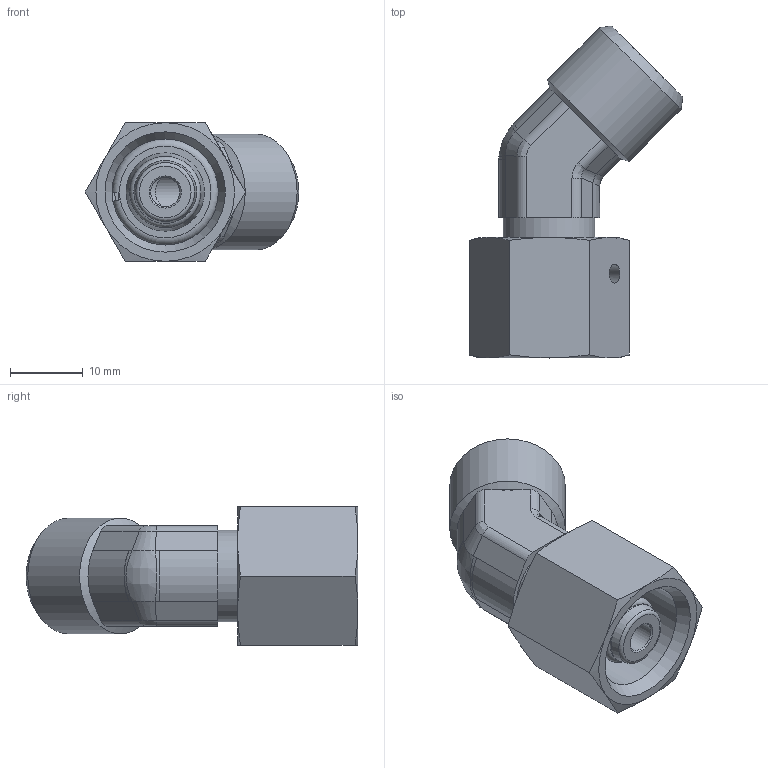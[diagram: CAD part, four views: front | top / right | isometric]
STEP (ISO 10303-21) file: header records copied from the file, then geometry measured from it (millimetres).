
FILE_DESCRIPTION(/* description */ ('','CAx-IF Rec.Pracs.---Representation and Presentation of Product Manufacturing Information (PMI)---4.0---2014-10-13'),/* implementation_level */ '2;1');
FILE_NAME(/* name */ 'M:\UFFICIO TECNICO\STEP per clienti\60\6055\605515.1.stp',/* time_stamp */ '2020-06-30T11:06:45+02:00',/* author */ ('cad2'),/* organization */ (''),/* preprocessor_version */ 'ST-DEVELOPER v18.1',/* originating_system */ 'Autodesk Inventor 2020',/* authorisation */ '');
FILE_SCHEMA (('AP242_MANAGED_MODEL_BASED_3D_ENGINEERING_MIM_LF { 1 0 10303 442 1 1 4 }'));
Length unit declared in the file: millimetre
Products named in the file (7): Assieme1; 605515.0; #3766; 000212 - 8S - 013603 - 030104; Parte77; 000212 - 8S; #3770
Assembly tree (6 placements, depth 4):
  Assieme1
    605515.0
      #3766
    000212 - 8S - 013603 - 030104
      Parte77
      000212 - 8S
        #3770
Bounding box: 29.28 x 45.5 x 19 mm (x, y, z)
Volume: 8044.2 mm3; surface area: 5452.7 mm2
Topology: 4 solids, 4 shells, 106 faces, 246 edges, 151 vertices
Faces by surface type: plane 36, cone 25, cylinder 24, torus 11, bspline 10
Full cylindrical faces by diameter (mm): 2.6 x1, 4 x1, 5 x1, 8 x1, 12.55 x2, 12.9 x1, 14.55 x1, 15.85 x1
Entity records: 3742 total; most frequent: CARTESIAN_POINT 1143, DIRECTION 544, ORIENTED_EDGE 492, EDGE_CURVE 246, AXIS2_PLACEMENT_3D 234, VERTEX_POINT 151, CIRCLE 118, EDGE_LOOP 117
